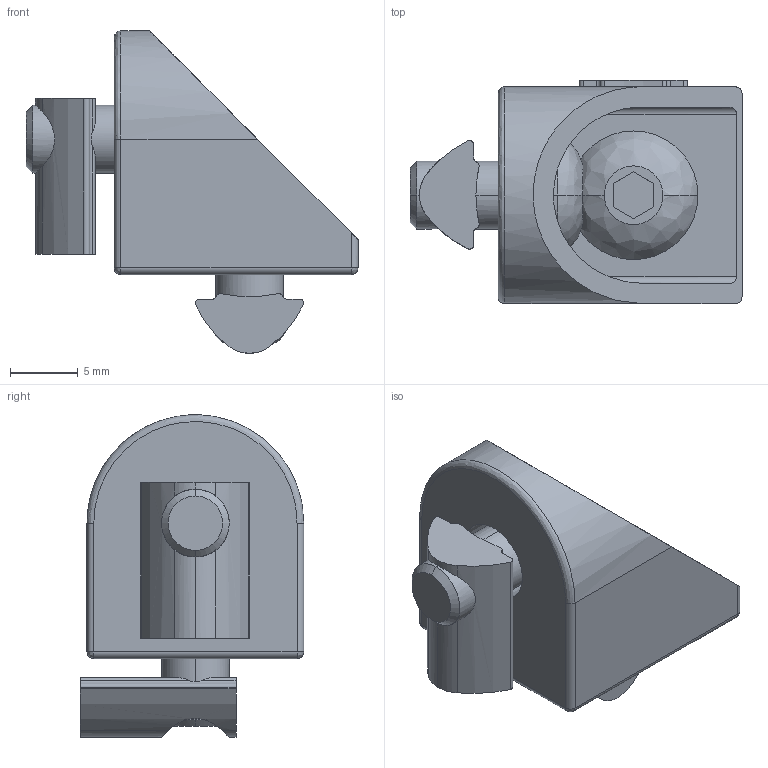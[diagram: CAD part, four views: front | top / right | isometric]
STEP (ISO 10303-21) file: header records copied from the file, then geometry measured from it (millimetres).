
FILE_DESCRIPTION (( 'STEP AP203' ), '1' );
FILE_NAME ('Geotech 0105GW Gelenkwinkel 5.STEP', '2024-03-14T10:18:38', ( 'Windows-Benutzer' ), ( '' ), 'SwSTEP 2.0', 'SolidWorks 2023', '' );
FILE_SCHEMA (( 'CONFIG_CONTROL_DESIGN' ));
Length unit declared in the file: millimetre
Products named in the file (1): Geotech 0105GW Gelenkwinkel 5
Bounding box: 24.5 x 16.5 x 23.8 mm (x, y, z)
Volume: 2768.6 mm3; surface area: 2544.6 mm2
Topology: 1 solids, 1 shells, 128 faces, 323 edges, 203 vertices
Faces by surface type: cylinder 64, plane 47, bspline 13, cone 4
Entity records: 4408 total; most frequent: CARTESIAN_POINT 1328, ORIENTED_EDGE 638, DIRECTION 621, EDGE_CURVE 319, AXIS2_PLACEMENT_3D 234, VERTEX_POINT 203, VECTOR 153, LINE 153
